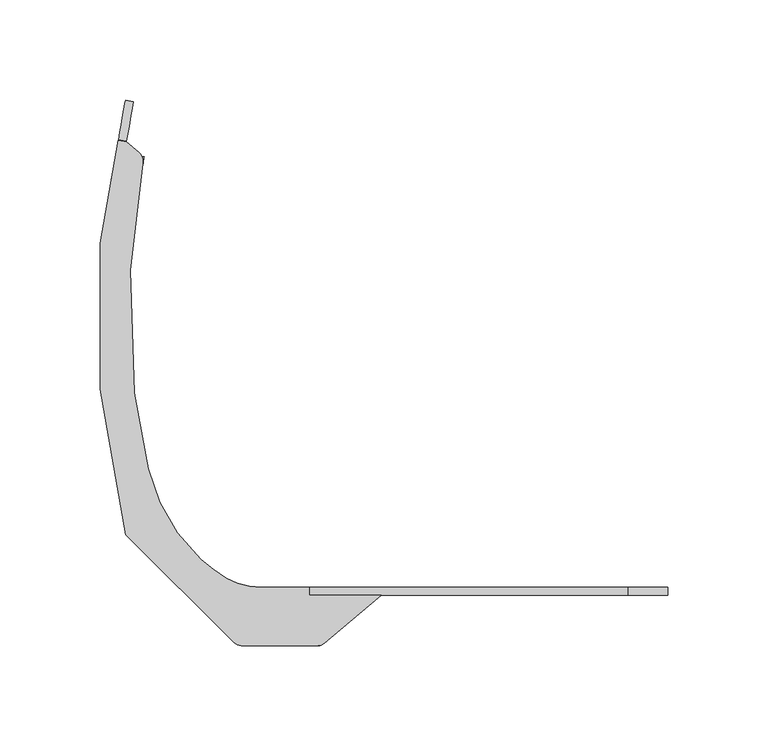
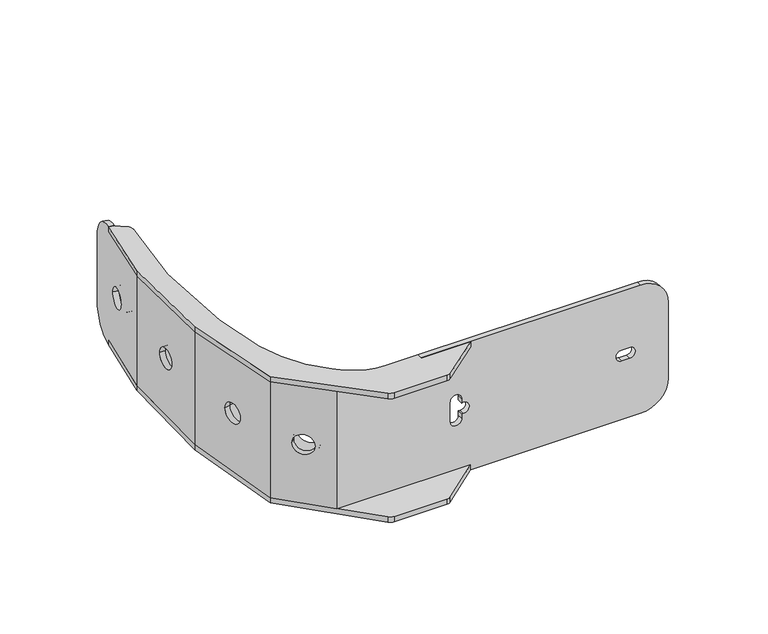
"""IFC4 building model written with IfcOpenShell, lengths in millimetres: proxy geometry, d&b U-Series U3 Horizonzal Bracket : d&b U-Series U3 Horizontal Bracket."""

from ifc_helpers import new_model, si_unit, point, frame, frame_2d, origin, place, context, project, spatial, polyline, circle_curve, ellipse_curve, trimmed, segment, composite_curve, outline, extrude, source, transform, mapped, element, save
from ifc_brep_helpers import plane_surface, cylinder_surface, revolved_surface, advanced_brep


def communication_devices_0d8d8cf8(model_context):
    return source(origin(), model_context, "Body", "SolidModel", [
        extrude(outline(composite_curve([segment(polyline([(52.3576886, 0.0), (0.0, 0.0), (1.4351612, 83.4887124), (53.7619164, 81.689199), (53.8307521, 85.693634)]), True, "CONTINUOUS"), segment(trimmed(circle_curve(frame_2d((53.4870052, 65.6965883)), 20.0), [point((53.8307521, 85.693634))], [point((73.484051, 65.3528414))], False, "CARTESIAN"), True, "CONTINUOUS"), segment(polyline([(73.484051, 65.3528414), (72.6296455, 15.6488638)]), True, "CONTINUOUS"), segment(trimmed(circle_curve(frame_2d((52.6325997, 15.9926107)), 20.0), [point((72.6296455, 15.6488638))], [point((52.2888528, -4.004435))], False, "CARTESIAN"), True, "CONTINUOUS"), segment(polyline([(52.2888528, -4.004435), (52.3576886, 0.0)]), True, "CONTINUOUS")], self_intersect=False), holes=[composite_curve([segment(trimmed(circle_curve(frame_2d((37.0514256, 40.4947914)), 7.5), [point((29.5514343, 40.5062078))], [point((44.5514169, 40.483375))], True, "CARTESIAN"), True, "CONTINUOUS"), segment(trimmed(circle_curve(frame_2d((37.0514256, 40.4947914)), 7.5), [point((44.5514169, 40.483375))], [point((29.5514343, 40.5062078))], True, "CARTESIAN"), True, "CONTINUOUS")], self_intersect=False)]), frame((-188.097709, 51.8457914, 41.7505233), z_axis=(-0.9848077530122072, 0.17364817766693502, 0.0), x_axis=(0.17362252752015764, 0.9846622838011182, -0.017187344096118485)), (0.0, 0.0, 1.0), 4.0),
        extrude(outline(composite_curve([segment(trimmed(circle_curve(frame_2d((0.0, -8.0000001)), 10.0), [point((0.0, -18.0000001))], [point((0.0, 1.9999999))], False, "CARTESIAN"), True, "CONTINUOUS"), segment(trimmed(circle_curve(frame_2d((0.0, -8.0000001)), 10.0), [point((0.0, 1.9999999))], [point((0.0, -18.0000001))], False, "CARTESIAN"), True, "CONTINUOUS")], self_intersect=False), holes=[composite_curve([segment(trimmed(circle_curve(frame_2d((0.0, -8.0000001)), 8.0), [point((0.0, -16.0))], [point((0.0, 0.0))], True, "CARTESIAN"), True, "CONTINUOUS"), segment(trimmed(circle_curve(frame_2d((0.0, -8.0000001)), 8.0), [point((0.0, 0.0))], [point((0.0, -16.0))], True, "CARTESIAN"), True, "CONTINUOUS")], self_intersect=False)]), frame((-166.9067806, -99.3432194, 0.2647911), z_axis=(0.70710678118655, 0.707106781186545, 0.0), x_axis=(0.0, 0.0, -1.0)), (0.0, 0.0, 1.0), 10.0),
        extrude(outline(composite_curve([segment(trimmed(circle_curve(frame_2d((0.0, -8.0)), 10.0), [point((0.0, -18.0))], [point((0.0, 2.0))], False, "CARTESIAN"), True, "CONTINUOUS"), segment(trimmed(circle_curve(frame_2d((0.0, -8.0)), 10.0), [point((0.0, 2.0))], [point((0.0, -18.0))], False, "CARTESIAN"), True, "CONTINUOUS")], self_intersect=False), holes=[composite_curve([segment(trimmed(circle_curve(frame_2d((0.0, -8.0)), 8.0), [point((0.0, -15.9999999))], [point((0.0, 0.0))], True, "CARTESIAN"), True, "CONTINUOUS"), segment(trimmed(circle_curve(frame_2d((0.0, -8.0)), 8.0), [point((0.0, 0.0))], [point((0.0, -15.9999999))], True, "CARTESIAN"), True, "CONTINUOUS")], self_intersect=False)]), frame((-180.3166063, -63.5937591, 0.6327525), z_axis=(0.9848077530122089, 0.1736481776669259, 0.0), x_axis=(0.0, 0.0, 1.0)), (0.0, 0.0, 1.0), 10.0),
        extrude(outline(composite_curve([segment(trimmed(circle_curve(frame_2d((16.1904295, 0.6344908)), 10.0), [point((6.1904295, 0.6344908))], [point((26.1904295, 0.6344908))], False, "CARTESIAN"), True, "CONTINUOUS"), segment(trimmed(circle_curve(frame_2d((16.1904295, 0.6344908)), 10.0), [point((26.1904295, 0.6344908))], [point((6.1904295, 0.6344908))], False, "CARTESIAN"), True, "CONTINUOUS")], self_intersect=False), holes=[composite_curve([segment(trimmed(circle_curve(frame_2d((16.1904295, 0.6344908)), 8.0), [point((8.1904295, 0.6344908))], [point((24.1904295, 0.6344908))], True, "CARTESIAN"), True, "CONTINUOUS"), segment(trimmed(circle_curve(frame_2d((16.1904295, 0.6344908)), 8.0), [point((24.1904295, 0.6344908))], [point((8.1904295, 0.6344908))], True, "CARTESIAN"), True, "CONTINUOUS")], self_intersect=False)]), frame((-188.03694, 0.0, 0.0), z_axis=(1.0, 0.0, 0.0), x_axis=(0.0, 1.0, 0.0)), (0.0, 0.0, 1.0), 10.0),
        extrude(outline(composite_curve([segment(trimmed(circle_curve(frame_2d((0.0, 10.0)), 10.0), [point((0.0, 20.0))], [point((0.0, 0.0))], False, "CARTESIAN"), True, "CONTINUOUS"), segment(trimmed(circle_curve(frame_2d((0.0, 10.0)), 10.0), [point((0.0, 0.0))], [point((0.0, 20.0))], False, "CARTESIAN"), True, "CONTINUOUS")], self_intersect=False), holes=[composite_curve([segment(trimmed(circle_curve(frame_2d((0.0, 10.0)), 8.0), [point((0.0, 18.0000001))], [point((0.0, 2.0))], True, "CARTESIAN"), True, "CONTINUOUS"), segment(trimmed(circle_curve(frame_2d((0.0, 10.0)), 8.0), [point((0.0, 2.0))], [point((0.0, 18.0000001))], True, "CARTESIAN"), True, "CONTINUOUS")], self_intersect=False)]), frame((-170.2012594, 95.7538959, 0.4682443), z_axis=(-0.9848077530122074, 0.17364817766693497, 0.0), x_axis=(-0.00272026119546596, -0.015427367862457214, -0.999877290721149)), (0.0, 0.0, 1.0), 10.0),
        advanced_brep(
        [(-80.4114772, -146.8298803, 45.2305443), (-52.0078057, -123.0, 44.8145921), (-52.0078057, -123.0, 48.8152015), (-80.4114772, -146.8298803, 49.2311536), (-87.8236765, -123.0, 44.8145921), (-87.8236765, -123.0, 48.8152015), (-87.8236765, -119.0, 44.7447719), (-87.8236765, -119.0, 48.7453812), (-111.7940907, -119.0, 44.7447719), (-111.7940907, -119.0, 48.7453812), (-129.2292487, -114.3482333, 44.663575), (-141.8963173, -105.0223177, 44.5007905), (-141.8963173, -105.0223177, 48.5013998), (-129.2292487, -114.3482333, 48.6641843), (-168.2420355, -59.8990797, 43.7131615), (-175.0937092, -21.8457182, 43.0489376), (-175.0937092, -21.8457182, 47.0495469), (-168.2420355, -59.8990797, 47.7137708), (-177.222479, 39.1142751, 41.9848769), (-177.222479, 39.1142751, 45.9854863), (-170.8726569, 92.2898429, 41.056694), (-170.8726569, 92.2898429, 45.0573033), (-172.9163364, 97.9990555, 40.9570393), (-179.0518568, 103.1473684, 40.8671751), (-179.0518568, 103.1473684, 44.8677845), (-172.9163364, 97.9990555, 44.9576486), (-182.9910879, 103.8419612, 40.855051), (-182.9910879, 103.8419612, 44.8556603), (-192.03694, 52.5403841, 41.7505233), (-192.03694, 52.5403841, 45.7511327), (-192.03694, -20.1595252, 43.019505), (-192.03694, -20.1595252, 47.0201143), (-179.2531054, -92.6602544, 44.2850099), (-179.2531054, -92.6602544, 48.2856192), (-125.3784088, -146.534951, 45.2253962), (-125.3784088, -146.534951, 49.2260056), (-121.8428749, -147.9994171, 45.2509586), (-121.8428749, -147.9994171, 49.2515679), (-83.6251279, -147.9994171, 45.2509586), (-83.6251279, -147.9994171, 49.2515679)],
        [
            (0, 1),
            (1, 2),
            (2, 3),
            (3, 0),
            (1, 4),
            (4, 5),
            (5, 2),
            (4, 6),
            (6, 7),
            (7, 5),
            (6, 8),
            (8, 9),
            (9, 7),
            (10, 11, ellipse_curve(frame((-94.5361031, -53.9601555, 43.6094972), z_axis=(0.0, -0.01745240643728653, -0.9998476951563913), x_axis=(0.0, -0.9998476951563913, 0.017452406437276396)), 69.6549502, 69.6443414)),
            (11, 12),
            (12, 13, ellipse_curve(frame((-94.5361031, -53.9601555, 47.6101065), z_axis=(0.0, 0.01745240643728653, 0.9998476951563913), x_axis=(0.0, -0.9998476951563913, 0.017452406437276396)), 69.6549502, 69.6443414)),
            (13, 10),
            (14, 15, ellipse_curve(frame((168.9712423, 20.4611592, 42.3104683), z_axis=(0.0, -0.01745240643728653, -0.9998476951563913), x_axis=(0.0, -0.9998476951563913, 0.017452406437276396)), 346.7090656, 346.6562601)),
            (15, 16),
            (16, 17, ellipse_curve(frame((168.9712423, 20.4611592, 46.3110776), z_axis=(0.0, 0.01745240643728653, 0.9998476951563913), x_axis=(0.0, -0.9998476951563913, 0.017452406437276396)), 346.7090656, 346.6562601)),
            (17, 14),
            (15, 18, ellipse_curve(frame((171.530288, 20.7758243, 42.3049758), z_axis=(0.0, -0.01745240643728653, -0.9998476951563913), x_axis=(0.0, -0.9998476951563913, 0.017452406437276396)), 349.2877774, 349.2345792)),
            (18, 19),
            (19, 16, ellipse_curve(frame((171.530288, 20.7758243, 46.3055851), z_axis=(0.0, 0.01745240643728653, 0.9998476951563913), x_axis=(0.0, -0.9998476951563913, 0.017452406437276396)), 349.2877774, 349.2345792)),
            (18, 20, ellipse_curve(frame((226.295874, 17.896088, 42.3552418), z_axis=(0.0, -0.01745240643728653, -0.9998476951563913), x_axis=(0.0, -0.9998476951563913, 0.017452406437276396)), 404.1373775, 404.0758254)),
            (20, 21),
            (21, 19, ellipse_curve(frame((226.295874, 17.896088, 46.3558511), z_axis=(0.0, 0.01745240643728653, 0.9998476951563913), x_axis=(0.0, -0.9998476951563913, 0.017452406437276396)), 404.1373775, 404.0758254)),
            (22, 23),
            (23, 24),
            (24, 25),
            (25, 22),
            (23, 26),
            (26, 27),
            (27, 24),
            (26, 28),
            (28, 29),
            (29, 27),
            (28, 30),
            (30, 31),
            (31, 29),
            (30, 32),
            (32, 33),
            (33, 31),
            (32, 34),
            (34, 35),
            (35, 33),
            (34, 36, ellipse_curve(frame((-121.8428749, -142.9994171, 45.1636833), z_axis=(0.0, 0.01745240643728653, 0.9998476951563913), x_axis=(0.0, 0.9998476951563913, -0.017452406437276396)), 5.0007616, 5.0)),
            (36, 37),
            (37, 35, ellipse_curve(frame((-121.8428749, -142.9994171, 49.1642926), z_axis=(0.0, -0.01745240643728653, -0.9998476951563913), x_axis=(0.0, 0.9998476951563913, -0.017452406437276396)), 5.0007616, 5.0)),
            (36, 38),
            (38, 39),
            (39, 37),
            (3, 39, ellipse_curve(frame((-83.6251279, -142.9994171, 49.1642926), z_axis=(0.0, -0.01745240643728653, -0.9998476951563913), x_axis=(0.0, 0.9998476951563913, -0.017452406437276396)), 5.0007616, 5.0)),
            (38, 0, ellipse_curve(frame((-83.6251279, -142.9994171, 45.1636833), z_axis=(0.0, 0.01745240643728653, 0.9998476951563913), x_axis=(0.0, 0.9998476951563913, -0.017452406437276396)), 5.0007616, 5.0)),
            (17, 12, ellipse_curve(frame((-80.6936526, -39.0356991, 47.3495991), z_axis=(0.0, 0.01745240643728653, 0.9998476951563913), x_axis=(0.0, -0.9998476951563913, 0.017452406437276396)), 90.0137095, 90.0)),
            (11, 14, ellipse_curve(frame((-80.6936526, -39.0356991, 43.3489898), z_axis=(0.0, -0.01745240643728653, -0.9998476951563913), x_axis=(0.0, -0.9998476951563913, 0.017452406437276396)), 90.0137095, 90.0)),
            (13, 9, ellipse_curve(frame((-111.7940907, -84.0, 48.1344539), z_axis=(0.0, 0.01745240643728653, 0.9998476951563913), x_axis=(0.0, -0.9998476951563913, 0.017452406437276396)), 35.0053315, 35.0)),
            (8, 10, ellipse_curve(frame((-111.7940907, -84.0, 44.1338446), z_axis=(0.0, -0.01745240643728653, -0.9998476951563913), x_axis=(0.0, -0.9998476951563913, 0.017452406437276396)), 35.0053315, 35.0)),
            (25, 21, ellipse_curve(frame((-176.7786741, 93.3961007, 45.0379935), z_axis=(0.0, -0.01745240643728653, -0.9998476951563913), x_axis=(0.0, 0.9998476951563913, -0.017452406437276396)), 6.0096461, 6.0087308)),
            (20, 22, ellipse_curve(frame((-176.7786741, 93.3961007, 41.0373842), z_axis=(0.0, 0.01745240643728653, 0.9998476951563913), x_axis=(0.0, 0.9998476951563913, -0.017452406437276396)), 6.0096461, 6.0087308)),
        ],
        [
            plane_surface(frame((-80.4114772, -146.8298803, 32.2831258), z_axis=(0.6427301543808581, -0.7660926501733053, 0.0), x_axis=(0.0, 0.0, 1.0))),
            plane_surface(frame((-52.0078057, -123.0, 32.2831258), z_axis=(0.0, 1.0, 0.0), x_axis=(0.0, 0.0, 1.0))),
            plane_surface(frame((-87.8236765, -123.0, 32.2831258), z_axis=(1.0, 0.0, 0.0), x_axis=(0.0, 0.0, 1.0))),
            plane_surface(frame((-87.8236765, -119.0, 32.2831258), z_axis=(0.0, 1.0, 0.0), x_axis=(0.0, 0.0, 1.0))),
            revolved_surface(polyline([(-24.891761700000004, -53.9601555, 48.82575300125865), (-24.891761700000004, -53.9601555, 42.39385069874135)]), (-94.5361031, -53.9601555, 69.0), (0.0, 0.0, 1.0)),
            revolved_surface(polyline([(515.6275024, 20.4611592, 52.36198512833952), (515.6275024, 20.4611592, 36.259560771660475)]), (168.9712423, 20.4611592, 69.0), (0.0, 0.0, 1.0)),
            revolved_surface(polyline([(520.7648672, 20.7758243, 52.40149735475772), (520.7648672, 20.7758243, 36.20906354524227)]), (171.530288, 20.7758243, 69.0), (0.0, 0.0, 1.0)),
            revolved_surface(polyline([(630.3716994, 17.896088, 53.40902086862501), (630.3716994, 17.896088, 35.302072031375)]), (226.295874, 17.896088, 69.0), (0.0, 0.0, 1.0)),
            plane_surface(frame((-172.9163364, 97.9990555, 32.2831258), z_axis=(0.6427876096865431, 0.7660444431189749, 0.0), x_axis=(0.0, 0.0, 1.0))),
            plane_surface(frame((-179.0518568, 103.1473684, 32.2831258), z_axis=(0.17364817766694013, 0.9848077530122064, 0.0), x_axis=(0.0, 0.0, 1.0))),
            plane_surface(frame((-182.9910879, 103.8419612, 32.2831258), z_axis=(-0.984807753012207, 0.17364817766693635, 0.0), x_axis=(0.0, 0.0, 1.0))),
            plane_surface(frame((-192.03694, 52.5403841, 32.2831258), z_axis=(-1.0, 0.0, 0.0), x_axis=(0.0, 0.0, 1.0))),
            plane_surface(frame((-192.03694, -20.1595252, 32.2831258), z_axis=(-0.9848077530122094, -0.17364817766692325, 0.0), x_axis=(0.0, 0.0, 1.0))),
            plane_surface(frame((-179.2531054, -92.6602544, 32.2831258), z_axis=(-0.7071067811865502, -0.7071067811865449, 0.0), x_axis=(0.0, 0.0, 1.0))),
            cylinder_surface(frame((-121.8428749, -142.9994171, 69.0), z_axis=(0.0, 0.0, -1.0), x_axis=(1.0, 0.0, 0.0)), 5.0),
            plane_surface(frame((-121.8428749, -147.9994171, 32.2831258), z_axis=(0.0, -1.0, 0.0), x_axis=(0.0, 0.0, 1.0))),
            cylinder_surface(frame((-83.6251279, -142.9994171, 69.0), z_axis=(0.0, 0.0, -1.0), x_axis=(1.0, 0.0, 0.0)), 5.0),
            revolved_surface(polyline([(9.306347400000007, -39.0356991, 48.920554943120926), (9.306347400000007, -39.0356991, 41.77803395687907)]), (-80.6936526, -39.0356991, 69.0), (0.0, 0.0, 1.0)),
            revolved_surface(polyline([(-76.7940907, -84.0, 48.7453812), (-76.7940907, -84.0, 43.52291732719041)]), (-111.7940907, -84.0, 69.0), (0.0, 0.0, 1.0)),
            cylinder_surface(frame((-176.7786741, 93.3961007, 69.0), z_axis=(0.0, 0.0, -1.0), x_axis=(1.0, 0.0, 0.0)), 6.0087308),
            plane_surface(frame((14.9113773, 136.9571761, 44.2776321), z_axis=(0.0, 0.01745240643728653, 0.9998476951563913), x_axis=(-1.0, 0.0, 0.0))),
            plane_surface(frame((14.9113773, -163.0669421, 45.5139632), z_axis=(0.0, -0.01745240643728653, -0.9998476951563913), x_axis=(-1.0, 0.0, 0.0))),
        ],
        [
            (0, [[1, 2, 3, 4]]),
            (1, [[5, 6, 7, -2]]),
            (2, [[8, 9, 10, -6]]),
            (3, [[11, 12, 13, -9]]),
            (4, [[14, 15, 16, 17]]),
            (5, [[18, 19, 20, 21]]),
            (6, [[22, 23, 24, -19]]),
            (7, [[25, 26, 27, -23]]),
            (8, [[28, 29, 30, 31]]),
            (9, [[32, 33, 34, -29]]),
            (10, [[35, 36, 37, -33]]),
            (11, [[38, 39, 40, -36]]),
            (12, [[41, 42, 43, -39]]),
            (13, [[44, 45, 46, -42]]),
            (14, [[47, 48, 49, -45]]),
            (15, [[50, 51, 52, -48]]),
            (16, [[53, -51, 54, -4]]),
            (17, [[55, -15, 56, -21]]),
            (18, [[57, -12, 58, -17]]),
            (19, [[59, -26, 60, -31]]),
            (20, [[-7, -10, -13, -57, -16, -55, -20, -24, -27, -59, -30, -34, -37, -40, -43, -46, -49, -52, -53, -3]]),
            (21, [[-54, -50, -47, -44, -41, -38, -35, -32, -28, -60, -25, -22, -18, -56, -14, -58, -11, -8, -5, -1]]),
        ],
    ),
        advanced_brep(
        [(-147.25, -119.0, 44.7447719), (-87.8236765, -119.0, 44.7447719), (-87.8236765, -119.0, 49.0), (70.75, -119.0, 49.0), (90.75, -119.0, 29.0), (90.75, -119.0, -29.0), (70.75, -119.0, -49.0), (-87.8236765, -119.0, -49.0), (-87.8236765, -119.0, -44.7447719), (-147.25, -119.0, -44.7447719), (62.75, -119.0, -4.15), (62.75, -119.0, 4.15), (57.25, -119.0, 4.15), (57.25, -119.0, -4.15), (-66.6684352, -119.0, 7.5791762), (-66.6684352, -119.0, -7.5791762), (-58.5058298, -119.0, -7.5791762), (-58.5058298, -119.0, -4.15), (-57.25, -119.0, -4.15), (-57.25, -119.0, 4.15), (-58.5058298, -119.0, 4.15), (-58.5058298, -119.0, 7.5791762), (-175.5342712, -90.7157288, -44.2510681), (-175.5342712, -90.7157288, 44.2510681), (-155.9466254, -110.3033746, 0.2647911), (-166.5532272, -99.6967728, 0.2647911), (-188.03694, -19.8095705, -43.0133965), (-188.03694, -19.8095705, 43.0133965), (-183.008153, -48.3292389, 0.6327525), (-180.4034304, -63.1013552, 0.6327525), (-188.03694, 51.8350762, -41.7628345), (-188.03694, 51.8350762, 41.7628345), (-188.03694, 8.6904295, 0.6344908), (-188.03694, 23.6904295, 0.6344908), (-192.03694, 52.5403841, -41.7505233), (-192.03694, -20.1595252, -43.019505), (-192.03694, -20.1595252, 43.019505), (-192.03694, 52.5403841, 41.7505233), (-192.03694, 23.6904295, 0.6344908), (-192.03694, 8.6904295, 0.6344908), (-179.254498, -92.6523562, -44.2848721), (-179.254498, -92.6523562, 44.2848721), (-184.3426614, -63.7959479, 0.6327525), (-186.947384, -49.0238316, 0.6327525), (-148.9068542, -123.0, -44.8145921), (-148.9068542, -123.0, 44.8145921), (-169.3816543, -102.5252, 0.2647911), (-158.7750526, -113.1318017, 0.2647911), (-87.8236765, -123.0, -44.8145921), (-87.8236765, -123.0, -49.0), (70.75, -123.0, -49.0), (90.75, -123.0, -29.0), (90.75, -123.0, 29.0), (70.75, -123.0, 49.0), (-87.8236765, -123.0, 49.0), (-87.8236765, -123.0, 44.8145921), (62.75, -123.0, -4.15), (57.25, -123.0, -4.15), (57.25, -123.0, 4.15), (62.75, -123.0, 4.15), (-66.6684352, -123.0, 7.5791762), (-58.5058298, -123.0, 7.5791762), (-58.5058298, -123.0, 4.15), (-57.25, -123.0, 4.15), (-57.25, -123.0, -4.15), (-58.5058298, -123.0, -4.15), (-58.5058298, -123.0, -7.5791762), (-66.6684352, -123.0, -7.5791762)],
        [
            (0, 1),
            (1, 2),
            (2, 3),
            (3, 4, circle_curve(frame((70.75, -119.0, 29.0), z_axis=(0.0, 1.0, 0.0), x_axis=(-1.0, 0.0, 0.0)), 20.0)),
            (4, 5),
            (5, 6, circle_curve(frame((70.75, -119.0, -29.0), z_axis=(0.0, 1.0, 0.0), x_axis=(-1.0, 0.0, 0.0)), 20.0)),
            (6, 7),
            (7, 8),
            (8, 9),
            (9, 0),
            (10, 11, circle_curve(frame((62.75, -119.0, 0.0), z_axis=(0.0, -1.0, 0.0), x_axis=(-1.0, 0.0, 0.0)), 4.15)),
            (11, 12),
            (12, 13, circle_curve(frame((57.25, -119.0, 0.0), z_axis=(0.0, -1.0, 0.0), x_axis=(-1.0, 0.0, 0.0)), 4.15)),
            (13, 10),
            (14, 15),
            (15, 16, circle_curve(frame((-62.5871325, -119.0, -7.5791762), z_axis=(0.0, -1.0, 0.0), x_axis=(1.0, 0.0, 0.0)), 4.0813027)),
            (16, 17),
            (17, 18),
            (18, 19, circle_curve(frame((-57.25, -119.0, 0.0), z_axis=(0.0, -1.0, 0.0), x_axis=(0.0, 0.0, -1.0)), 4.15)),
            (19, 20),
            (20, 21),
            (21, 14, circle_curve(frame((-62.5871325, -119.0, 7.5791762), z_axis=(0.0, -1.0, 0.0), x_axis=(1.0, 0.0, 0.0)), 4.0813027)),
            (9, 22),
            (22, 23),
            (23, 0),
            (24, 25, circle_curve(frame((-161.2499263, -105.0000737, 0.2647911), z_axis=(-0.7071067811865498, -0.7071067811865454, 0.0), x_axis=(-0.7071067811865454, 0.7071067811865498, 0.0)), 7.5)),
            (25, 24, circle_curve(frame((-161.2499263, -105.0000737, 0.2647911), z_axis=(-0.7071067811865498, -0.7071067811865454, 0.0), x_axis=(-0.7071067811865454, 0.7071067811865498, 0.0)), 7.5)),
            (22, 26),
            (26, 27),
            (27, 23),
            (28, 29, circle_curve(frame((-181.7057917, -55.7152971, 0.6327525), z_axis=(-0.9848077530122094, -0.17364817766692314, 0.0), x_axis=(0.17364817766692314, -0.9848077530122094, 0.0)), 7.5)),
            (29, 28, circle_curve(frame((-181.7057917, -55.7152971, 0.6327525), z_axis=(-0.9848077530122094, -0.17364817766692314, 0.0), x_axis=(0.17364817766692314, -0.9848077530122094, 0.0)), 7.5)),
            (26, 30),
            (30, 31),
            (31, 27),
            (32, 33, circle_curve(frame((-188.03694, 16.1904295, 0.6344908), z_axis=(-1.0, 0.0, 0.0), x_axis=(0.0, 1.0, 0.0)), 7.5)),
            (33, 32, circle_curve(frame((-188.03694, 16.1904295, 0.6344908), z_axis=(-1.0, 0.0, 0.0), x_axis=(0.0, 1.0, 0.0)), 7.5)),
            (34, 35),
            (35, 36),
            (36, 37),
            (37, 34),
            (38, 39, circle_curve(frame((-192.03694, 16.1904295, 0.6344908), z_axis=(1.0, 0.0, 0.0), x_axis=(0.0, 1.0, 0.0)), 7.5)),
            (39, 38, circle_curve(frame((-192.03694, 16.1904295, 0.6344908), z_axis=(1.0, 0.0, 0.0), x_axis=(0.0, 1.0, 0.0)), 7.5)),
            (35, 40),
            (40, 41),
            (41, 36),
            (42, 43, circle_curve(frame((-185.6450227, -56.4098898, 0.6327525), z_axis=(0.9848077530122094, 0.17364817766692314, 0.0), x_axis=(0.17364817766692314, -0.9848077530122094, 0.0)), 7.5)),
            (43, 42, circle_curve(frame((-185.6450227, -56.4098898, 0.6327525), z_axis=(0.9848077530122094, 0.17364817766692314, 0.0), x_axis=(0.17364817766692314, -0.9848077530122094, 0.0)), 7.5)),
            (40, 44),
            (44, 45),
            (45, 41),
            (46, 47, circle_curve(frame((-164.0783534, -107.8285008, 0.2647911), z_axis=(0.7071067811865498, 0.7071067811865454, 0.0), x_axis=(-0.7071067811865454, 0.7071067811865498, 0.0)), 7.5)),
            (47, 46, circle_curve(frame((-164.0783534, -107.8285008, 0.2647911), z_axis=(0.7071067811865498, 0.7071067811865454, 0.0), x_axis=(-0.7071067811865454, 0.7071067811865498, 0.0)), 7.5)),
            (44, 48),
            (48, 49),
            (49, 50),
            (50, 51, circle_curve(frame((70.75, -123.0, -29.0), z_axis=(0.0, -1.0, 0.0), x_axis=(-1.0, 0.0, 0.0)), 20.0)),
            (51, 52),
            (52, 53, circle_curve(frame((70.75, -123.0, 29.0), z_axis=(0.0, -1.0, 0.0), x_axis=(-1.0, 0.0, 0.0)), 20.0)),
            (53, 54),
            (54, 55),
            (55, 45),
            (56, 57),
            (57, 58, circle_curve(frame((57.25, -123.0, 0.0), z_axis=(0.0, 1.0, 0.0), x_axis=(-1.0, 0.0, 0.0)), 4.15)),
            (58, 59),
            (59, 56, circle_curve(frame((62.75, -123.0, 0.0), z_axis=(0.0, 1.0, 0.0), x_axis=(-1.0, 0.0, 0.0)), 4.15)),
            (60, 61, circle_curve(frame((-62.5871325, -123.0, 7.5791762), z_axis=(0.0, 1.0, 0.0), x_axis=(1.0, 0.0, 0.0)), 4.0813027)),
            (61, 62),
            (62, 63),
            (63, 64, circle_curve(frame((-57.25, -123.0, 0.0), z_axis=(0.0, 1.0, 0.0), x_axis=(0.0, 0.0, -1.0)), 4.15)),
            (64, 65),
            (65, 66),
            (66, 67, circle_curve(frame((-62.5871325, -123.0, -7.5791762), z_axis=(0.0, 1.0, 0.0), x_axis=(1.0, 0.0, 0.0)), 4.0813027)),
            (67, 60),
            (8, 48),
            (34, 30),
            (6, 50),
            (49, 7),
            (4, 52),
            (51, 5),
            (2, 54),
            (53, 3),
            (1, 55),
            (13, 57),
            (56, 10),
            (12, 58),
            (11, 59),
            (31, 37),
            (21, 61),
            (60, 14),
            (20, 62),
            (19, 63),
            (18, 64),
            (17, 65),
            (16, 66),
            (15, 67),
            (33, 38),
            (39, 32),
            (29, 42),
            (43, 28),
            (25, 46),
            (47, 24),
        ],
        [
            plane_surface(frame((-87.8236765, -119.0, -45.0), z_axis=(0.0, 1.0, 0.0), x_axis=(0.0, 0.0, 1.0))),
            plane_surface(frame((-147.25, -119.0, -45.0), z_axis=(0.7071067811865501, 0.7071067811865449, 0.0), x_axis=(0.0, 0.0, 1.0))),
            plane_surface(frame((-175.5342712, -90.7157288, -45.0), z_axis=(0.9848077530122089, 0.173648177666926, 0.0), x_axis=(0.0, 0.0, 1.0))),
            plane_surface(frame((-188.03694, -19.8095705, -45.0), z_axis=(1.0, 0.0, 0.0), x_axis=(0.0, 0.0, 1.0))),
            plane_surface(frame((-192.03694, 52.5403841, -45.0), z_axis=(-1.0, 0.0, 0.0), x_axis=(0.0, 0.0, 1.0))),
            plane_surface(frame((-192.03694, -20.1595252, -45.0), z_axis=(-0.9848077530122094, -0.17364817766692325, 0.0), x_axis=(0.0, 0.0, 1.0))),
            plane_surface(frame((-179.254498, -92.6523562, -45.0), z_axis=(-0.7071067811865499, -0.7071067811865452, 0.0), x_axis=(0.0, 0.0, 1.0))),
            plane_surface(frame((-148.9068542, -123.0, -45.0), z_axis=(0.0, -1.0, 0.0), x_axis=(0.0, 0.0, 1.0))),
            plane_surface(frame((147.7330701, -167.9994171, -45.6000599), z_axis=(0.0, 0.017452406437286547, -0.9998476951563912), x_axis=(-1.0, 0.0, 0.0))),
            plane_surface(frame((-87.8236765, -119.0, -49.0), z_axis=(0.0, 0.0, -1.0), x_axis=(0.0, -1.0, 0.0))),
            plane_surface(frame((90.75, -119.0, -29.0), z_axis=(1.0, 0.0, 0.0), x_axis=(0.0, -1.0, 0.0))),
            plane_surface(frame((70.75, -119.0, 49.0), z_axis=(0.0, 0.0, 1.0), x_axis=(0.0, -1.0, 0.0))),
            plane_surface(frame((-87.8236765, -119.0, 49.0), z_axis=(-1.0, 0.0, 0.0), x_axis=(0.0, -1.0, 0.0))),
            cylinder_surface(frame((70.75, -123.0, -29.0), z_axis=(0.0, 1.0, 0.0), x_axis=(-1.0, 0.0, 0.0)), 20.0),
            cylinder_surface(frame((70.75, -123.0, 29.0), z_axis=(0.0, 1.0, 0.0), x_axis=(-1.0, 0.0, 0.0)), 20.0),
            plane_surface(frame((62.75, -119.0, -4.15), z_axis=(0.0, 0.0, 1.0), x_axis=(0.0, -1.0, 0.0))),
            revolved_surface(polyline([(53.1, -123.0, 0.0), (53.1, -119.0, 0.0)]), (57.25, -119.0, 0.0), (0.0, -1.0, 0.0)),
            plane_surface(frame((57.25, -119.0, 4.15), z_axis=(0.0, 0.0, -1.0), x_axis=(0.0, -1.0, 0.0))),
            revolved_surface(polyline([(58.6, -123.0, 0.0), (58.6, -119.0, 0.0)]), (62.75, -119.0, 0.0), (0.0, -1.0, 0.0)),
            plane_surface(frame((147.7330701, 147.0005829, 40.1017144), z_axis=(0.0, 0.017452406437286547, 0.9998476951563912), x_axis=(-1.0, 0.0, 0.0))),
            revolved_surface(polyline([(-58.5058298, -123.0, 7.5791762), (-58.5058298, -119.0, 7.5791762)]), (-62.5871325, -119.0, 7.5791762), (0.0, -1.0, 0.0)),
            plane_surface(frame((-58.5058298, -119.0, 7.5791762), z_axis=(-1.0, 0.0, 0.0), x_axis=(0.0, -1.0, 0.0))),
            plane_surface(frame((-58.5058298, -119.0, 4.15), z_axis=(0.0, 0.0, -1.0), x_axis=(0.0, -1.0, 0.0))),
            revolved_surface(polyline([(-57.25, -123.0, -4.15), (-57.25, -119.0, -4.15)]), (-57.25, -119.0, 0.0), (0.0, -1.0, 0.0)),
            plane_surface(frame((-57.25, -119.0, -4.15), z_axis=(0.0, 0.0, 1.0), x_axis=(0.0, -1.0, 0.0))),
            plane_surface(frame((-58.5058298, -119.0, -4.15), z_axis=(-1.0, 0.0, 0.0), x_axis=(0.0, -1.0, 0.0))),
            revolved_surface(polyline([(-58.5058298, -123.0, -7.5791762), (-58.5058298, -119.0, -7.5791762)]), (-62.5871325, -119.0, -7.5791762), (0.0, -1.0, 0.0)),
            plane_surface(frame((-66.6684352, -119.0, -7.5791762), z_axis=(1.0, 0.0, 0.0), x_axis=(0.0, -1.0, 0.0))),
            revolved_surface(polyline([(-192.03694, 23.6904295, 0.6344908), (-188.03694, 23.6904295, 0.6344908)]), (-172.03694, 16.1904295, 0.6344908), (-1.0, 0.0, 0.0)),
            revolved_surface(polyline([(-184.3426613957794, -63.795947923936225, 0.6327525), (-180.40343033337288, -63.101355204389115, 0.6327525)]), (-175.7969452, -54.673408, 0.6327525), (-0.9848077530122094, -0.17364817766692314, 0.0)),
            revolved_surface(polyline([(-169.38165430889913, -102.52519999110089, 0.2647911), (-166.55322715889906, -99.69677284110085, 0.2647911)]), (-157.0072856, -100.757433, 0.2647911), (-0.7071067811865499, -0.7071067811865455, 0.0)),
            plane_surface(frame((-188.03694, 51.8350762, -45.0), z_axis=(0.1736481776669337, 0.9848077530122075, 0.0), x_axis=(0.0, 0.0, 1.0))),
        ],
        [
            (0, [[1, 2, 3, 4, 5, 6, 7, 8, 9, 10], [11, 12, 13, 14], [15, 16, 17, 18, 19, 20, 21, 22]]),
            (1, [[23, 24, 25, -10], [26, 27]]),
            (2, [[28, 29, 30, -24], [31, 32]]),
            (3, [[33, 34, 35, -29], [36, 37]]),
            (4, [[38, 39, 40, 41], [42, 43]]),
            (5, [[44, 45, 46, -39], [47, 48]]),
            (6, [[49, 50, 51, -45], [52, 53]]),
            (7, [[54, 55, 56, 57, 58, 59, 60, 61, 62, -50], [63, 64, 65, 66], [67, 68, 69, 70, 71, 72, 73, 74]]),
            (8, [[75, -54, -49, -44, -38, 76, -33, -28, -23, -9]]),
            (9, [[77, -56, 78, -7]]),
            (10, [[79, -58, 80, -5]]),
            (11, [[81, -60, 82, -3]]),
            (12, [[-2, 83, -61, -81]]),
            (12, [[-55, -75, -8, -78]]),
            (13, [[-80, -57, -77, -6]]),
            (14, [[-82, -59, -79, -4]]),
            (15, [[84, -63, 85, -14]]),
            (16, [[86, -64, -84, -13]]),
            (17, [[87, -65, -86, -12]]),
            (18, [[-85, -66, -87, -11]]),
            (19, [[-25, -30, -35, 88, -40, -46, -51, -62, -83, -1]]),
            (20, [[89, -67, 90, -22]]),
            (21, [[91, -68, -89, -21]]),
            (22, [[92, -69, -91, -20]]),
            (23, [[93, -70, -92, -19]]),
            (24, [[94, -71, -93, -18]]),
            (25, [[95, -72, -94, -17]]),
            (26, [[96, -73, -95, -16]]),
            (27, [[-90, -74, -96, -15]]),
            (28, [[-37, 97, -43, 98]]),
            (28, [[-42, -97, -36, -98]]),
            (29, [[-32, 99, -48, 100]]),
            (29, [[-47, -99, -31, -100]]),
            (30, [[-27, 101, -53, 102]]),
            (30, [[-52, -101, -26, -102]]),
            (31, [[-88, -34, -76, -41]]),
        ],
    ),
        advanced_brep(
        [(-80.4114772, -146.8298803, -49.2311536), (-52.0078057, -123.0, -48.8152015), (-52.0078057, -123.0, -44.8145921), (-80.4114772, -146.8298803, -45.2305443), (-87.8236765, -123.0, -48.8152015), (-87.8236765, -123.0, -44.8145921), (-87.8236765, -119.0, -48.7453812), (-87.8236765, -119.0, -44.7447719), (-111.7940907, -119.0, -48.7453812), (-111.7940907, -119.0, -44.7447719), (-129.2292487, -114.3482333, -48.6641843), (-141.8963173, -105.0223177, -48.5013998), (-141.8963173, -105.0223177, -44.5007905), (-129.2292487, -114.3482333, -44.663575), (-168.2420355, -59.8990797, -47.7137708), (-175.0937092, -21.8457182, -47.0495469), (-175.0937092, -21.8457182, -43.0489376), (-168.2420355, -59.8990797, -43.7131615), (-177.222479, 39.1142751, -45.9854863), (-177.222479, 39.1142751, -41.9848769), (-170.8726569, 92.2898429, -45.0573033), (-170.8726569, 92.2898429, -41.056694), (-172.9163364, 97.9990555, -44.9576486), (-179.0518568, 103.1473684, -44.8677845), (-179.0518568, 103.1473684, -40.8671751), (-172.9163364, 97.9990555, -40.9570393), (-182.9910879, 103.8419612, -44.8556603), (-182.9910879, 103.8419612, -40.855051), (-192.03694, 52.5403841, -45.7511327), (-192.03694, 52.5403841, -41.7505233), (-192.03694, -20.1595252, -47.0201143), (-192.03694, -20.1595252, -43.019505), (-179.2531054, -92.6602544, -48.2856192), (-179.2531054, -92.6602544, -44.2850099), (-125.3784088, -146.534951, -49.2260056), (-125.3784088, -146.534951, -45.2253962), (-121.8428749, -147.9994171, -49.2515679), (-121.8428749, -147.9994171, -45.2509586), (-83.6251279, -147.9994171, -49.2515679), (-83.6251279, -147.9994171, -45.2509586)],
        [
            (0, 1),
            (1, 2),
            (2, 3),
            (3, 0),
            (1, 4),
            (4, 5),
            (5, 2),
            (4, 6),
            (6, 7),
            (7, 5),
            (6, 8),
            (8, 9),
            (9, 7),
            (10, 11, ellipse_curve(frame((-94.5361031, -53.9601555, -47.6101065), z_axis=(0.0, 0.01745240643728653, -0.9998476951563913), x_axis=(0.0, 0.9998476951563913, 0.017452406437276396)), 69.6549502, 69.6443414)),
            (11, 12),
            (12, 13, ellipse_curve(frame((-94.5361031, -53.9601555, -43.6094972), z_axis=(0.0, -0.01745240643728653, 0.9998476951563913), x_axis=(0.0, 0.9998476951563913, 0.017452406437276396)), 69.6549502, 69.6443414)),
            (13, 10),
            (14, 15, ellipse_curve(frame((168.9712423, 20.4611592, -46.3110776), z_axis=(0.0, 0.01745240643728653, -0.9998476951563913), x_axis=(0.0, 0.9998476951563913, 0.017452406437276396)), 346.7090656, 346.6562601)),
            (15, 16),
            (16, 17, ellipse_curve(frame((168.9712423, 20.4611592, -42.3104683), z_axis=(0.0, -0.01745240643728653, 0.9998476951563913), x_axis=(0.0, 0.9998476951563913, 0.017452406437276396)), 346.7090656, 346.6562601)),
            (17, 14),
            (15, 18, ellipse_curve(frame((171.530288, 20.7758243, -46.3055851), z_axis=(0.0, 0.01745240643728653, -0.9998476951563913), x_axis=(0.0, 0.9998476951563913, 0.017452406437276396)), 349.2877774, 349.2345792)),
            (18, 19),
            (19, 16, ellipse_curve(frame((171.530288, 20.7758243, -42.3049758), z_axis=(0.0, -0.01745240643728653, 0.9998476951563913), x_axis=(0.0, 0.9998476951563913, 0.017452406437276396)), 349.2877774, 349.2345792)),
            (18, 20, ellipse_curve(frame((226.295874, 17.896088, -46.3558511), z_axis=(0.0, 0.01745240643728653, -0.9998476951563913), x_axis=(0.0, 0.9998476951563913, 0.017452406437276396)), 404.1373775, 404.0758254)),
            (20, 21),
            (21, 19, ellipse_curve(frame((226.295874, 17.896088, -42.3552418), z_axis=(0.0, -0.01745240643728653, 0.9998476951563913), x_axis=(0.0, 0.9998476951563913, 0.017452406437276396)), 404.1373775, 404.0758254)),
            (22, 23),
            (23, 24),
            (24, 25),
            (25, 22),
            (23, 26),
            (26, 27),
            (27, 24),
            (26, 28),
            (28, 29),
            (29, 27),
            (28, 30),
            (30, 31),
            (31, 29),
            (30, 32),
            (32, 33),
            (33, 31),
            (32, 34),
            (34, 35),
            (35, 33),
            (34, 36, ellipse_curve(frame((-121.8428749, -142.9994171, -49.1642926), z_axis=(0.0, -0.01745240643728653, 0.9998476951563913), x_axis=(0.0, -0.9998476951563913, -0.017452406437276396)), 5.0007616, 5.0)),
            (36, 37),
            (37, 35, ellipse_curve(frame((-121.8428749, -142.9994171, -45.1636833), z_axis=(0.0, 0.01745240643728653, -0.9998476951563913), x_axis=(0.0, -0.9998476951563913, -0.017452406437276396)), 5.0007616, 5.0)),
            (36, 38),
            (38, 39),
            (39, 37),
            (3, 39, ellipse_curve(frame((-83.6251279, -142.9994171, -45.1636833), z_axis=(0.0, 0.01745240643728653, -0.9998476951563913), x_axis=(0.0, -0.9998476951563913, -0.017452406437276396)), 5.0007616, 5.0)),
            (38, 0, ellipse_curve(frame((-83.6251279, -142.9994171, -49.1642926), z_axis=(0.0, -0.01745240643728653, 0.9998476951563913), x_axis=(0.0, -0.9998476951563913, -0.017452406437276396)), 5.0007616, 5.0)),
            (17, 12, ellipse_curve(frame((-80.6936526, -39.0356991, -43.3489898), z_axis=(0.0, -0.01745240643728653, 0.9998476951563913), x_axis=(0.0, 0.9998476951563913, 0.017452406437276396)), 90.0137095, 90.0)),
            (11, 14, ellipse_curve(frame((-80.6936526, -39.0356991, -47.3495991), z_axis=(0.0, 0.01745240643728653, -0.9998476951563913), x_axis=(0.0, 0.9998476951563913, 0.017452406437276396)), 90.0137095, 90.0)),
            (13, 9, ellipse_curve(frame((-111.7940907, -84.0, -44.1338446), z_axis=(0.0, -0.01745240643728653, 0.9998476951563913), x_axis=(0.0, 0.9998476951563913, 0.017452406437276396)), 35.0053315, 35.0)),
            (8, 10, ellipse_curve(frame((-111.7940907, -84.0, -48.1344539), z_axis=(0.0, 0.01745240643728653, -0.9998476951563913), x_axis=(0.0, 0.9998476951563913, 0.017452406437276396)), 35.0053315, 35.0)),
            (22, 20, ellipse_curve(frame((-176.7786741, 93.3961007, -45.0379935), z_axis=(0.0, 0.01745240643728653, -0.9998476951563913), x_axis=(0.0, -0.9998476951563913, -0.017452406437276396)), 6.0096461, 6.0087308)),
            (21, 25, ellipse_curve(frame((-176.7786741, 93.3961007, -41.0373842), z_axis=(0.0, -0.01745240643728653, 0.9998476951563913), x_axis=(0.0, -0.9998476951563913, -0.017452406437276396)), 6.0096461, 6.0087308)),
        ],
        [
            plane_surface(frame((-80.4114772, -146.8298803, -54.7242295), z_axis=(0.6427301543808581, -0.7660926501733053, 0.0), x_axis=(0.0, 0.0, 1.0))),
            plane_surface(frame((-52.0078057, -123.0, -54.7242295), z_axis=(0.0, 1.0, 0.0), x_axis=(0.0, 0.0, 1.0))),
            plane_surface(frame((-87.8236765, -123.0, -54.7242295), z_axis=(1.0, 0.0, 0.0), x_axis=(0.0, 0.0, 1.0))),
            plane_surface(frame((-87.8236765, -119.0, -54.7242295), z_axis=(0.0, 1.0, 0.0), x_axis=(0.0, 0.0, 1.0))),
            revolved_surface(polyline([(-24.891761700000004, -53.9601555, -42.39385069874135), (-24.891761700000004, -53.9601555, -48.82575300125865)]), (-94.5361031, -53.9601555, -29.0), (0.0, 0.0, 1.0)),
            revolved_surface(polyline([(515.6275024, 20.4611592, -36.259560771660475), (515.6275024, 20.4611592, -52.36198512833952)]), (168.9712423, 20.4611592, -29.0), (0.0, 0.0, 1.0)),
            revolved_surface(polyline([(520.7648672, 20.7758243, -36.20906354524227), (520.7648672, 20.7758243, -52.40149735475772)]), (171.530288, 20.7758243, -29.0), (0.0, 0.0, 1.0)),
            revolved_surface(polyline([(630.3716994, 17.896088, -35.302072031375), (630.3716994, 17.896088, -53.40902086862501)]), (226.295874, 17.896088, -29.0), (0.0, 0.0, 1.0)),
            plane_surface(frame((-172.9163364, 97.9990555, -54.7242295), z_axis=(0.6427876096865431, 0.7660444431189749, 0.0), x_axis=(0.0, 0.0, 1.0))),
            plane_surface(frame((-179.0518568, 103.1473684, -54.7242295), z_axis=(0.17364817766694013, 0.9848077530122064, 0.0), x_axis=(0.0, 0.0, 1.0))),
            plane_surface(frame((-182.9910879, 103.8419612, -54.7242295), z_axis=(-0.984807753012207, 0.17364817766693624, 0.0), x_axis=(0.0, 0.0, 1.0))),
            plane_surface(frame((-192.03694, 52.5403841, -54.7242295), z_axis=(-1.0, 0.0, 0.0), x_axis=(0.0, 0.0, 1.0))),
            plane_surface(frame((-192.03694, -20.1595252, -54.7242295), z_axis=(-0.9848077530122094, -0.1736481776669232, 0.0), x_axis=(0.0, 0.0, 1.0))),
            plane_surface(frame((-179.2531054, -92.6602544, -54.7242295), z_axis=(-0.7071067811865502, -0.7071067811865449, 0.0), x_axis=(0.0, 0.0, 1.0))),
            cylinder_surface(frame((-121.8428749, -142.9994171, -29.0), z_axis=(0.0, 0.0, -1.0), x_axis=(1.0, 0.0, 0.0)), 5.0),
            plane_surface(frame((-121.8428749, -147.9994171, -54.7242295), z_axis=(0.0, -1.0, 0.0), x_axis=(0.0, 0.0, 1.0))),
            cylinder_surface(frame((-83.6251279, -142.9994171, -29.0), z_axis=(0.0, 0.0, -1.0), x_axis=(1.0, 0.0, 0.0)), 5.0),
            revolved_surface(polyline([(9.306347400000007, -39.0356991, -41.77803395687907), (9.306347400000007, -39.0356991, -48.920554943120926)]), (-80.6936526, -39.0356991, -29.0), (0.0, 0.0, 1.0)),
            revolved_surface(polyline([(-76.7940907, -84.0, -43.52291732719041), (-76.7940907, -84.0, -48.7453812)]), (-111.7940907, -84.0, -29.0), (0.0, 0.0, 1.0)),
            plane_surface(frame((14.9113773, -163.0669421, -49.5145725), z_axis=(0.0, 0.01745240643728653, -0.9998476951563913), x_axis=(-1.0, 0.0, 0.0))),
            plane_surface(frame((14.9113773, 136.9571761, -40.2770228), z_axis=(0.0, -0.01745240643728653, 0.9998476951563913), x_axis=(-1.0, 0.0, 0.0))),
            cylinder_surface(frame((-176.7786741, 93.3961007, -29.0), z_axis=(0.0, 0.0, -1.0), x_axis=(1.0, 0.0, 0.0)), 6.0087308),
        ],
        [
            (0, [[1, 2, 3, 4]]),
            (1, [[5, 6, 7, -2]]),
            (2, [[8, 9, 10, -6]]),
            (3, [[11, 12, 13, -9]]),
            (4, [[14, 15, 16, 17]]),
            (5, [[18, 19, 20, 21]]),
            (6, [[22, 23, 24, -19]]),
            (7, [[25, 26, 27, -23]]),
            (8, [[28, 29, 30, 31]]),
            (9, [[32, 33, 34, -29]]),
            (10, [[35, 36, 37, -33]]),
            (11, [[38, 39, 40, -36]]),
            (12, [[41, 42, 43, -39]]),
            (13, [[44, 45, 46, -42]]),
            (14, [[47, 48, 49, -45]]),
            (15, [[50, 51, 52, -48]]),
            (16, [[53, -51, 54, -4]]),
            (17, [[55, -15, 56, -21]]),
            (18, [[57, -12, 58, -17]]),
            (19, [[-54, -50, -47, -44, -41, -38, -35, -32, -28, 59, -25, -22, -18, -56, -14, -58, -11, -8, -5, -1]]),
            (20, [[-7, -10, -13, -57, -16, -55, -20, -24, -27, 60, -30, -34, -37, -40, -43, -46, -49, -52, -53, -3]]),
            (21, [[-60, -26, -59, -31]]),
        ],
    ),
    ])


if __name__ == "__main__":
    model = new_model("IFC4")
    model_context = context("Model", 3, world=origin())
    ifc_project = project(units=[si_unit("LENGTHUNIT", "METRE", prefix="MILLI")], contexts=[model_context])
    site = spatial("IfcSite", under=ifc_project)
    building = spatial("IfcBuilding", under=site)
    placement = place(None, origin())
    communication_devices_shape = communication_devices_0d8d8cf8(model_context)
    element("IfcBuildingElementProxy", 1, Name="d&b U-Series U3 Horizonzal Bracket : d&b U-Series U3 Horizontal Bracket", ObjectType="d&b U-Series U3 Horizonzal Bracket : d&b U-Series U3 Horizontal Bracket", at=placement, inside=building, context=model_context, shape_type="MappedRepresentation", body=[
        mapped(communication_devices_shape, transform((0.0, 0.0, 0.0), x_axis=(1.0, 0.0, 0.0), y_axis=(0.0, 1.0, 0.0), z_axis=(0.0, 0.0, 1.0))),
    ])
    save(model, "model.ifc")
